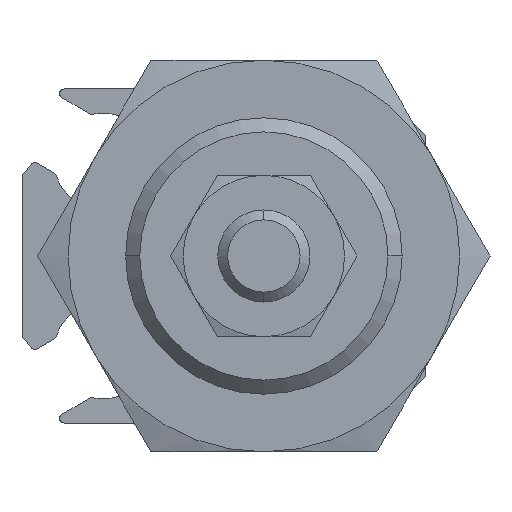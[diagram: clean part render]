
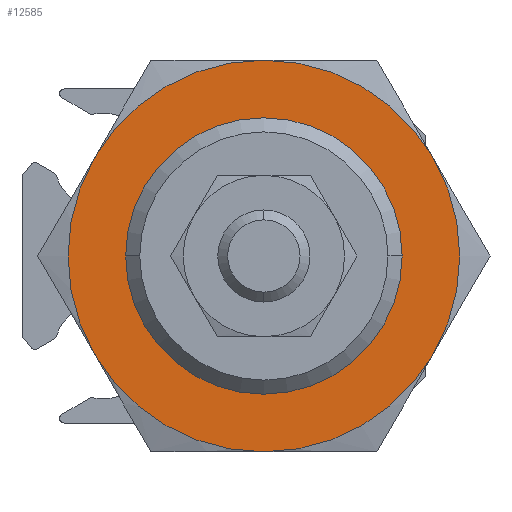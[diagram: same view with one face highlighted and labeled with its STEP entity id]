
A CAD part, left-side view. The second image highlights one B-rep face of the part: STEP entity #12585.
In plain terms, the highlighted planar face has unit normal (-1, 0, 0).
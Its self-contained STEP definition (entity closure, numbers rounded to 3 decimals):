
#468 = CARTESIAN_POINT ( 'NONE',  ( -1.5, 0., 0. ) ) ;
#515 = DIRECTION ( 'NONE',  ( -1., 0., 0. ) ) ;
#636 = DIRECTION ( 'NONE',  ( 0., 0., -1. ) ) ;
#684 = CIRCLE ( 'NONE', #17553, 8.5 ) ;
#911 = CARTESIAN_POINT ( 'NONE',  ( -1.5, 0., 6. ) ) ;
#916 = EDGE_LOOP ( 'NONE', ( #15982, #16305, #18160, #12264, #12067, #15831 ) ) ;
#1091 = DIRECTION ( 'NONE',  ( -1., 0., 0. ) ) ;
#1147 = VERTEX_POINT ( 'NONE', #11326 ) ;
#1251 = CARTESIAN_POINT ( 'NONE',  ( -1.5, 0., -6. ) ) ;
#1797 = DIRECTION ( 'NONE',  ( -1., 0., 0. ) ) ;
#2271 = EDGE_CURVE ( 'NONE', #9898, #1147, #11820, .T. ) ;
#2457 = ORIENTED_EDGE ( 'NONE', *, *, #9867, .T. ) ;
#2689 = CARTESIAN_POINT ( 'NONE',  ( -1.5, 8.5, 0. ) ) ;
#2847 = AXIS2_PLACEMENT_3D ( 'NONE', #11192, #14059, #5182 ) ;
#3405 = AXIS2_PLACEMENT_3D ( 'NONE', #468, #13320, #14023 ) ;
#4036 = PLANE ( 'NONE',  #10564 ) ;
#4064 = DIRECTION ( 'NONE',  ( 0., 0., -1. ) ) ;
#4545 = CARTESIAN_POINT ( 'NONE',  ( -1.5, 0., 0. ) ) ;
#4552 = CARTESIAN_POINT ( 'NONE',  ( -1.5, 0., 0. ) ) ;
#5182 = DIRECTION ( 'NONE',  ( 0., 0., 1. ) ) ;
#5435 = DIRECTION ( 'NONE',  ( 0., 0., 1. ) ) ;
#6186 = VERTEX_POINT ( 'NONE', #17935 ) ;
#7087 = CIRCLE ( 'NONE', #7895, 8.5 ) ;
#7129 = VERTEX_POINT ( 'NONE', #911 ) ;
#7275 = CARTESIAN_POINT ( 'NONE',  ( -1.5, -7.361, 4.25 ) ) ;
#7860 = CIRCLE ( 'NONE', #8864, 8.5 ) ;
#7895 = AXIS2_PLACEMENT_3D ( 'NONE', #11404, #1091, #8608 ) ;
#8231 = CARTESIAN_POINT ( 'NONE',  ( -1.5, 0., 0. ) ) ;
#8608 = DIRECTION ( 'NONE',  ( 0., 0., -1. ) ) ;
#8864 = AXIS2_PLACEMENT_3D ( 'NONE', #4552, #9068, #14872 ) ;
#9068 = DIRECTION ( 'NONE',  ( -1., 0., 0. ) ) ;
#9185 = DIRECTION ( 'NONE',  ( 0., 0., -1. ) ) ;
#9265 = EDGE_CURVE ( 'NONE', #18406, #10968, #7087, .T. ) ;
#9489 = VERTEX_POINT ( 'NONE', #16627 ) ;
#9867 = EDGE_CURVE ( 'NONE', #14475, #7129, #12214, .T. ) ;
#9898 = VERTEX_POINT ( 'NONE', #15216 ) ;
#10100 = ORIENTED_EDGE ( 'NONE', *, *, #13755, .T. ) ;
#10311 = AXIS2_PLACEMENT_3D ( 'NONE', #19131, #19013, #4064 ) ;
#10564 = AXIS2_PLACEMENT_3D ( 'NONE', #2689, #16034, #5435 ) ;
#10599 = EDGE_LOOP ( 'NONE', ( #10100, #2457 ) ) ;
#10968 = VERTEX_POINT ( 'NONE', #7275 ) ;
#11192 = CARTESIAN_POINT ( 'NONE',  ( -1.5, 0., 0. ) ) ;
#11326 = CARTESIAN_POINT ( 'NONE',  ( -1.5, 0., -8.5 ) ) ;
#11404 = CARTESIAN_POINT ( 'NONE',  ( -1.5, 0., 0. ) ) ;
#11812 = CIRCLE ( 'NONE', #2847, 6. ) ;
#11820 = CIRCLE ( 'NONE', #19329, 8.5 ) ;
#12008 = DIRECTION ( 'NONE',  ( 0., 0., -1. ) ) ;
#12067 = ORIENTED_EDGE ( 'NONE', *, *, #12451, .T. ) ;
#12214 = CIRCLE ( 'NONE', #3405, 6. ) ;
#12264 = ORIENTED_EDGE ( 'NONE', *, *, #2271, .T. ) ;
#12451 = EDGE_CURVE ( 'NONE', #1147, #18406, #14751, .T. ) ;
#12585 = ADVANCED_FACE ( 'NONE', ( #18264, #15212 ), #4036, .T. ) ;
#12952 = CARTESIAN_POINT ( 'NONE',  ( -1.5, -7.361, -4.25 ) ) ;
#13320 = DIRECTION ( 'NONE',  ( 1., 0., 0. ) ) ;
#13423 = EDGE_CURVE ( 'NONE', #9489, #9898, #684, .T. ) ;
#13668 = CARTESIAN_POINT ( 'NONE',  ( -1.5, 0., 0. ) ) ;
#13755 = EDGE_CURVE ( 'NONE', #7129, #14475, #11812, .T. ) ;
#13933 = AXIS2_PLACEMENT_3D ( 'NONE', #4545, #1797, #12008 ) ;
#14023 = DIRECTION ( 'NONE',  ( 0., 0., 1. ) ) ;
#14059 = DIRECTION ( 'NONE',  ( 1., 0., 0. ) ) ;
#14475 = VERTEX_POINT ( 'NONE', #1251 ) ;
#14751 = CIRCLE ( 'NONE', #10311, 8.5 ) ;
#14872 = DIRECTION ( 'NONE',  ( 0., 0., -1. ) ) ;
#15212 = FACE_BOUND ( 'NONE', #10599, .T. ) ;
#15216 = CARTESIAN_POINT ( 'NONE',  ( -1.5, 7.361, -4.25 ) ) ;
#15831 = ORIENTED_EDGE ( 'NONE', *, *, #9265, .T. ) ;
#15982 = ORIENTED_EDGE ( 'NONE', *, *, #17058, .T. ) ;
#16034 = DIRECTION ( 'NONE',  ( -1., 0., 0. ) ) ;
#16305 = ORIENTED_EDGE ( 'NONE', *, *, #19281, .T. ) ;
#16627 = CARTESIAN_POINT ( 'NONE',  ( -1.5, 7.361, 4.25 ) ) ;
#17058 = EDGE_CURVE ( 'NONE', #10968, #6186, #19048, .T. ) ;
#17553 = AXIS2_PLACEMENT_3D ( 'NONE', #8231, #515, #636 ) ;
#17935 = CARTESIAN_POINT ( 'NONE',  ( -1.5, 0., 8.5 ) ) ;
#18160 = ORIENTED_EDGE ( 'NONE', *, *, #13423, .T. ) ;
#18196 = DIRECTION ( 'NONE',  ( -1., 0., 0. ) ) ;
#18264 = FACE_OUTER_BOUND ( 'NONE', #916, .T. ) ;
#18406 = VERTEX_POINT ( 'NONE', #12952 ) ;
#19013 = DIRECTION ( 'NONE',  ( -1., 0., 0. ) ) ;
#19048 = CIRCLE ( 'NONE', #13933, 8.5 ) ;
#19131 = CARTESIAN_POINT ( 'NONE',  ( -1.5, 0., 0. ) ) ;
#19281 = EDGE_CURVE ( 'NONE', #6186, #9489, #7860, .T. ) ;
#19329 = AXIS2_PLACEMENT_3D ( 'NONE', #13668, #18196, #9185 ) ;
